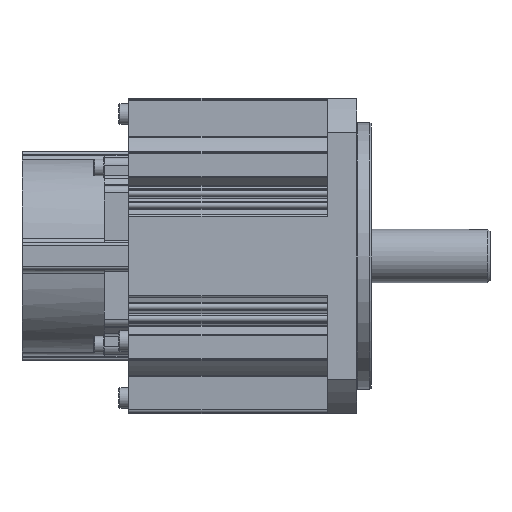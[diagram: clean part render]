
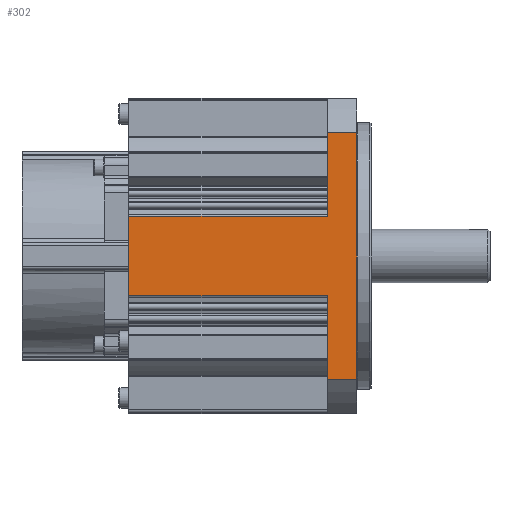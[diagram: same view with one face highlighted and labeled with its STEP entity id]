
A CAD part, front view. The second image highlights one B-rep face of the part: STEP entity #302.
In plain terms, the highlighted planar face has unit normal (0, -1, 0).
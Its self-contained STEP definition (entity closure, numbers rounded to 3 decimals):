
#302 = ADVANCED_FACE( '', ( #1114 ), #1115, .T. );
#1114 = FACE_OUTER_BOUND( '', #2333, .T. );
#1115 = PLANE( '', #2334 );
#2333 = EDGE_LOOP( '', ( #5109, #5110, #5111, #5112, #5113, #5114, #5115, #5116 ) );
#2334 = AXIS2_PLACEMENT_3D( '', #5117, #5118, #5119 );
#5109 = ORIENTED_EDGE( '', *, *, #7922, .F. );
#5110 = ORIENTED_EDGE( '', *, *, #8173, .T. );
#5111 = ORIENTED_EDGE( '', *, *, #8135, .F. );
#5112 = ORIENTED_EDGE( '', *, *, #8174, .F. );
#5113 = ORIENTED_EDGE( '', *, *, #7586, .F. );
#5114 = ORIENTED_EDGE( '', *, *, #7594, .T. );
#5115 = ORIENTED_EDGE( '', *, *, #8124, .T. );
#5116 = ORIENTED_EDGE( '', *, *, #7592, .F. );
#5117 = CARTESIAN_POINT( '', ( -94., -65., 50.806 ) );
#5118 = DIRECTION( '', ( 0., -1., 0. ) );
#5119 = DIRECTION( '', ( 0., 0., -1. ) );
#7586 = EDGE_CURVE( '', #9096, #9098, #9099, .T. );
#7592 = EDGE_CURVE( '', #9108, #9103, #9110, .T. );
#7594 = EDGE_CURVE( '', #9096, #9112, #9114, .T. );
#7922 = EDGE_CURVE( '', #9668, #9108, #9669, .T. );
#8124 = EDGE_CURVE( '', #9112, #9103, #10000, .T. );
#8135 = EDGE_CURVE( '', #10019, #10021, #10022, .T. );
#8173 = EDGE_CURVE( '', #9668, #10021, #10094, .T. );
#8174 = EDGE_CURVE( '', #9098, #10019, #10095, .T. );
#9096 = VERTEX_POINT( '', #11742 );
#9098 = VERTEX_POINT( '', #11744 );
#9099 = LINE( '', #11745, #11746 );
#9103 = VERTEX_POINT( '', #11750 );
#9108 = VERTEX_POINT( '', #11756 );
#9110 = LINE( '', #11758, #11759 );
#9112 = VERTEX_POINT( '', #11761 );
#9114 = LINE( '', #11763, #11764 );
#9668 = VERTEX_POINT( '', #12502 );
#9669 = LINE( '', #12503, #12504 );
#10000 = LINE( '', #12960, #12961 );
#10019 = VERTEX_POINT( '', #12981 );
#10021 = VERTEX_POINT( '', #12983 );
#10022 = LINE( '', #12984, #12985 );
#10094 = LINE( '', #13084, #13085 );
#10095 = LINE( '', #13086, #13087 );
#11742 = CARTESIAN_POINT( '', ( -12., -65., 16.424 ) );
#11744 = CARTESIAN_POINT( '', ( -12., -65., 50.806 ) );
#11745 = CARTESIAN_POINT( '', ( -12., -65., 50.806 ) );
#11746 = VECTOR( '', #14732, 1000. );
#11750 = CARTESIAN_POINT( '', ( -94., -65., -16.424 ) );
#11756 = CARTESIAN_POINT( '', ( -12., -65., -16.424 ) );
#11758 = CARTESIAN_POINT( '', ( -12., -65., -16.424 ) );
#11759 = VECTOR( '', #14746, 1000. );
#11761 = CARTESIAN_POINT( '', ( -94., -65., 16.424 ) );
#11763 = CARTESIAN_POINT( '', ( -12., -65., 16.424 ) );
#11764 = VECTOR( '', #14750, 1000. );
#12502 = CARTESIAN_POINT( '', ( -12., -65., -50.806 ) );
#12503 = CARTESIAN_POINT( '', ( -12., -65., 50.806 ) );
#12504 = VECTOR( '', #15364, 1000. );
#12960 = CARTESIAN_POINT( '', ( -94., -65., 50.806 ) );
#12961 = VECTOR( '', #15718, 1000. );
#12981 = CARTESIAN_POINT( '', ( 0., -65., 50.806 ) );
#12983 = CARTESIAN_POINT( '', ( 0., -65., -50.806 ) );
#12984 = CARTESIAN_POINT( '', ( 0., -65., 50.806 ) );
#12985 = VECTOR( '', #15747, 1000. );
#13084 = CARTESIAN_POINT( '', ( -94., -65., -50.806 ) );
#13085 = VECTOR( '', #15805, 1000. );
#13086 = CARTESIAN_POINT( '', ( -94., -65., 50.806 ) );
#13087 = VECTOR( '', #15806, 1000. );
#14732 = DIRECTION( '', ( 0., 0., 1. ) );
#14746 = DIRECTION( '', ( -1., 0., 0. ) );
#14750 = DIRECTION( '', ( -1., 0., 0. ) );
#15364 = DIRECTION( '', ( 0., 0., 1. ) );
#15718 = DIRECTION( '', ( 0., 0., -1. ) );
#15747 = DIRECTION( '', ( 0., 0., -1. ) );
#15805 = DIRECTION( '', ( 1., 0., 0. ) );
#15806 = DIRECTION( '', ( 1., 0., 0. ) );
